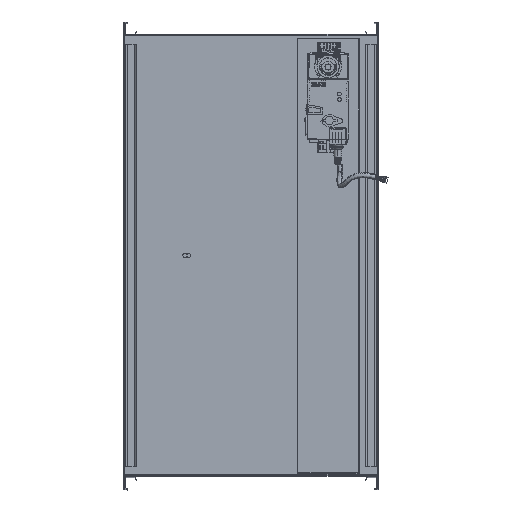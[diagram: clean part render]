
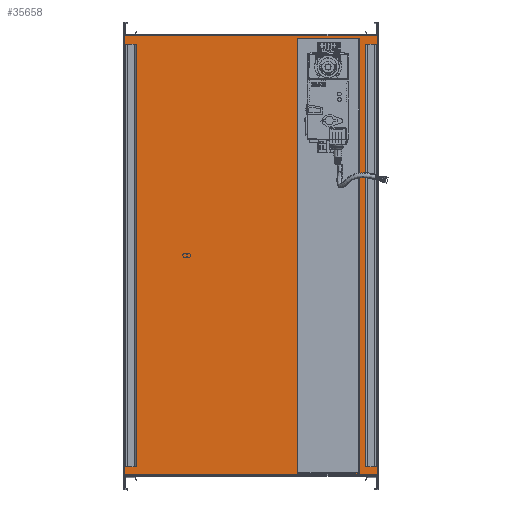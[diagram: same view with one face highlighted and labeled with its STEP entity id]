
A CAD part, top view. The second image highlights one B-rep face of the part: STEP entity #35658.
In plain terms, the highlighted planar face has unit normal (0, 0, 1).
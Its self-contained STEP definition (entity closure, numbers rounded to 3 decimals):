
#2368 = CARTESIAN_POINT ( 'NONE',  ( 29.04, 357.783, 1550. ) ) ;
#3736 = CARTESIAN_POINT ( 'NONE',  ( 29.04, 357.783, 1550. ) ) ;
#4217 = DIRECTION ( 'NONE',  ( 0., -1., 0. ) ) ;
#4786 = EDGE_CURVE ( 'NONE', #83146, #66577, #58528, .T. ) ;
#8039 = DIRECTION ( 'NONE',  ( 1., 0., 0. ) ) ;
#13307 = EDGE_LOOP ( 'NONE', ( #36415, #77821, #95052, #94778 ) ) ;
#13316 = VECTOR ( 'NONE', #4217, 1000. ) ;
#13597 = DIRECTION ( 'NONE',  ( 1., 0., 0. ) ) ;
#17470 = CARTESIAN_POINT ( 'NONE',  ( 155.577, -333.848, 1550. ) ) ;
#19341 = FACE_OUTER_BOUND ( 'NONE', #44651, .T. ) ;
#20722 = CARTESIAN_POINT ( 'NONE',  ( -244.423, -333.848, 1550. ) ) ;
#22503 = CARTESIAN_POINT ( 'NONE',  ( 155.577, 362.152, 1550. ) ) ;
#26342 = LINE ( 'NONE', #3736, #13316 ) ;
#27473 = VERTEX_POINT ( 'NONE', #87881 ) ;
#28303 = AXIS2_PLACEMENT_3D ( 'NONE', #57793, #86199, #41541 ) ;
#30481 = ORIENTED_EDGE ( 'NONE', *, *, #4786, .F. ) ;
#31287 = VERTEX_POINT ( 'NONE', #79629 ) ;
#31737 = DIRECTION ( 'NONE',  ( -1., 0., 0. ) ) ;
#35658 = ADVANCED_FACE ( 'NONE', ( #19341, #42932 ), #56846, .T. ) ;
#36415 = ORIENTED_EDGE ( 'NONE', *, *, #94238, .F. ) ;
#36991 = VERTEX_POINT ( 'NONE', #81315 ) ;
#37043 = CARTESIAN_POINT ( 'NONE',  ( 127.04, 357.783, 1550. ) ) ;
#39648 = EDGE_CURVE ( 'NONE', #74691, #31287, #26342, .T. ) ;
#40865 = LINE ( 'NONE', #85038, #54516 ) ;
#40940 = ORIENTED_EDGE ( 'NONE', *, *, #65082, .T. ) ;
#41541 = DIRECTION ( 'NONE',  ( 1., 0., 0. ) ) ;
#42932 = FACE_BOUND ( 'NONE', #13307, .T. ) ;
#44651 = EDGE_LOOP ( 'NONE', ( #82173, #30481, #90028, #40940 ) ) ;
#45588 = VECTOR ( 'NONE', #65414, 1000. ) ;
#46366 = CARTESIAN_POINT ( 'NONE',  ( 29.04, 357.783, 1550. ) ) ;
#48838 = VECTOR ( 'NONE', #89832, 1000. ) ;
#50185 = LINE ( 'NONE', #86250, #70211 ) ;
#53568 = CARTESIAN_POINT ( 'NONE',  ( -244.423, 362.152, 1550. ) ) ;
#54516 = VECTOR ( 'NONE', #92287, 1000. ) ;
#54568 = EDGE_CURVE ( 'NONE', #31287, #94148, #88885, .T. ) ;
#56846 = PLANE ( 'NONE',  #28303 ) ;
#57793 = CARTESIAN_POINT ( 'NONE',  ( -244.423, -333.848, 1550. ) ) ;
#58528 = LINE ( 'NONE', #95149, #48838 ) ;
#63999 = VECTOR ( 'NONE', #31737, 1000. ) ;
#64628 = EDGE_CURVE ( 'NONE', #94148, #27473, #73571, .T. ) ;
#65082 = EDGE_CURVE ( 'NONE', #87435, #36991, #50185, .T. ) ;
#65414 = DIRECTION ( 'NONE',  ( 0., 1., 0. ) ) ;
#66112 = VECTOR ( 'NONE', #8039, 1000. ) ;
#66577 = VERTEX_POINT ( 'NONE', #22503 ) ;
#69922 = LINE ( 'NONE', #17470, #86779 ) ;
#70211 = VECTOR ( 'NONE', #13597, 1000. ) ;
#70864 = DIRECTION ( 'NONE',  ( 0., -1., 0. ) ) ;
#73571 = LINE ( 'NONE', #37043, #45588 ) ;
#74691 = VERTEX_POINT ( 'NONE', #46366 ) ;
#74935 = CARTESIAN_POINT ( 'NONE',  ( 29.04, -332.217, 1550. ) ) ;
#75491 = LINE ( 'NONE', #2368, #63999 ) ;
#77821 = ORIENTED_EDGE ( 'NONE', *, *, #64628, .F. ) ;
#79629 = CARTESIAN_POINT ( 'NONE',  ( 29.04, -332.217, 1550. ) ) ;
#81315 = CARTESIAN_POINT ( 'NONE',  ( 155.577, -333.848, 1550. ) ) ;
#81367 = EDGE_CURVE ( 'NONE', #83146, #87435, #40865, .T. ) ;
#82173 = ORIENTED_EDGE ( 'NONE', *, *, #83209, .F. ) ;
#83146 = VERTEX_POINT ( 'NONE', #53568 ) ;
#83209 = EDGE_CURVE ( 'NONE', #66577, #36991, #69922, .T. ) ;
#85038 = CARTESIAN_POINT ( 'NONE',  ( -244.423, -333.848, 1550. ) ) ;
#86199 = DIRECTION ( 'NONE',  ( 0., 0., 1. ) ) ;
#86250 = CARTESIAN_POINT ( 'NONE',  ( -244.423, -333.848, 1550. ) ) ;
#86779 = VECTOR ( 'NONE', #70864, 1000. ) ;
#87435 = VERTEX_POINT ( 'NONE', #20722 ) ;
#87881 = CARTESIAN_POINT ( 'NONE',  ( 127.04, 357.783, 1550. ) ) ;
#88495 = CARTESIAN_POINT ( 'NONE',  ( 127.04, -332.217, 1550. ) ) ;
#88885 = LINE ( 'NONE', #74935, #66112 ) ;
#89832 = DIRECTION ( 'NONE',  ( 1., 0., 0. ) ) ;
#90028 = ORIENTED_EDGE ( 'NONE', *, *, #81367, .T. ) ;
#92287 = DIRECTION ( 'NONE',  ( 0., -1., 0. ) ) ;
#94148 = VERTEX_POINT ( 'NONE', #88495 ) ;
#94238 = EDGE_CURVE ( 'NONE', #27473, #74691, #75491, .T. ) ;
#94778 = ORIENTED_EDGE ( 'NONE', *, *, #39648, .F. ) ;
#95052 = ORIENTED_EDGE ( 'NONE', *, *, #54568, .F. ) ;
#95149 = CARTESIAN_POINT ( 'NONE',  ( -244.423, 362.152, 1550. ) ) ;
